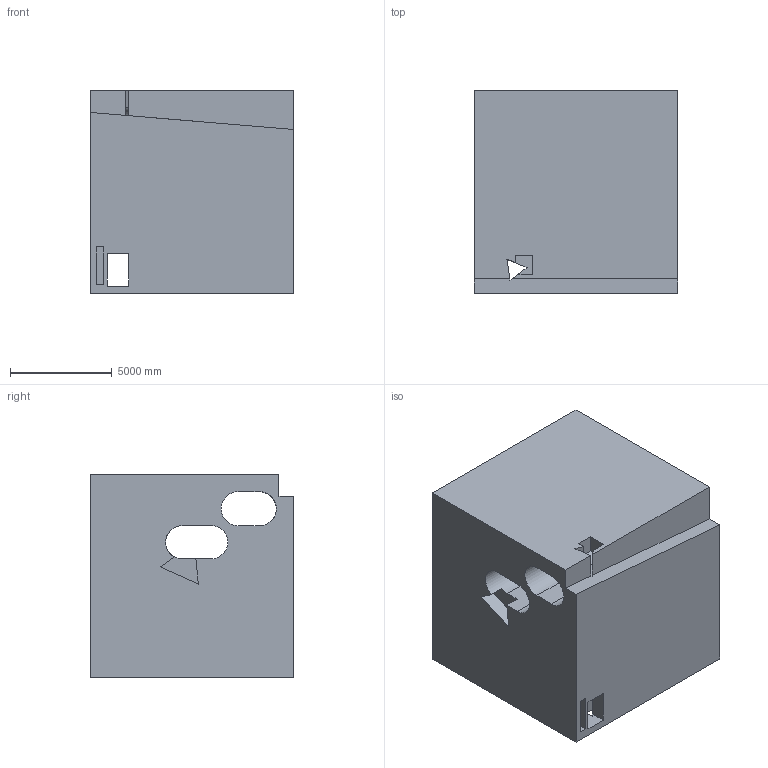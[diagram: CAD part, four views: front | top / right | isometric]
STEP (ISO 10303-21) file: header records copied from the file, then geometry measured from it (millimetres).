
FILE_DESCRIPTION (( 'STEP AP203' ), '1' );
FILE_NAME ('81.STEP', '2022-09-02T15:24:30', ( 'user' ), ( '' ), 'SwSTEP 2.0', 'SolidWorks 2021', '' );
FILE_SCHEMA (( 'CONFIG_CONTROL_DESIGN' ));
Length unit declared in the file: centimetre
Products named in the file (1): 81
Bounding box: 10000 x 10000 x 10000 mm (x, y, z)
Volume: 865175895540.2 mm3; surface area: 859265709.5 mm2
Topology: 2 solids, 2 shells, 55 faces, 165 edges, 110 vertices
Faces by surface type: plane 44, cylinder 11
Entity records: 2147 total; most frequent: CARTESIAN_POINT 550, ORIENTED_EDGE 330, DIRECTION 294, EDGE_CURVE 165, LINE 134, VECTOR 134, VERTEX_POINT 110, AXIS2_PLACEMENT_3D 80
